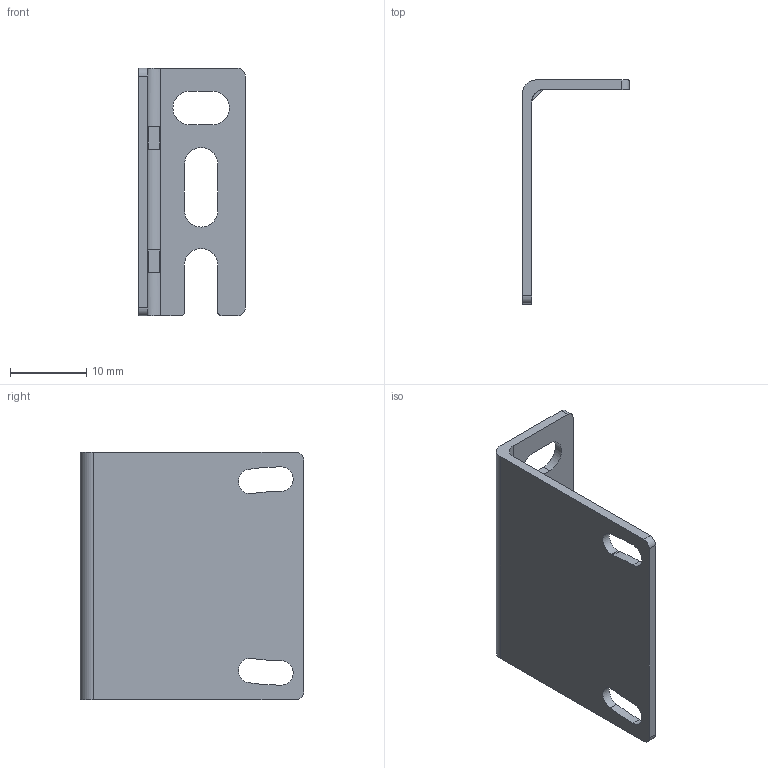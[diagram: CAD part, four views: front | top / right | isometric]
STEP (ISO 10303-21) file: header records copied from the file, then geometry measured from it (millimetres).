
FILE_DESCRIPTION(('CoCreate Modeling STEP Export'),'2;1');
FILE_NAME('BEF-W100-A.stp','2012-11-26T13:02:33',(''),(''),'CoCreate Modeling STEP processor for AP214 (Solid Model)','CoCreate Modeling 16.50A 01-Dec-2009 (C) Parametric Technology GmbH','');
FILE_SCHEMA(('AUTOMOTIVE_DESIGN { 1 0 10303 214 1 1 1 1 }'));
Length unit declared in the file: millimetre
Products named in the file (1): BEF-W100-A
Bounding box: 14 x 29.3 x 32.4 mm (x, y, z)
Volume: 1461.2 mm3; surface area: 2677 mm2
Topology: 1 solids, 1 shells, 51 faces, 141 edges, 94 vertices
Faces by surface type: cylinder 26, plane 25
Entity records: 1596 total; most frequent: ORIENTED_EDGE 282, CARTESIAN_POINT 268, DIRECTION 265, EDGE_CURVE 141, VERTEX_POINT 94, AXIS2_PLACEMENT_3D 91, VECTOR 83, LINE 83
